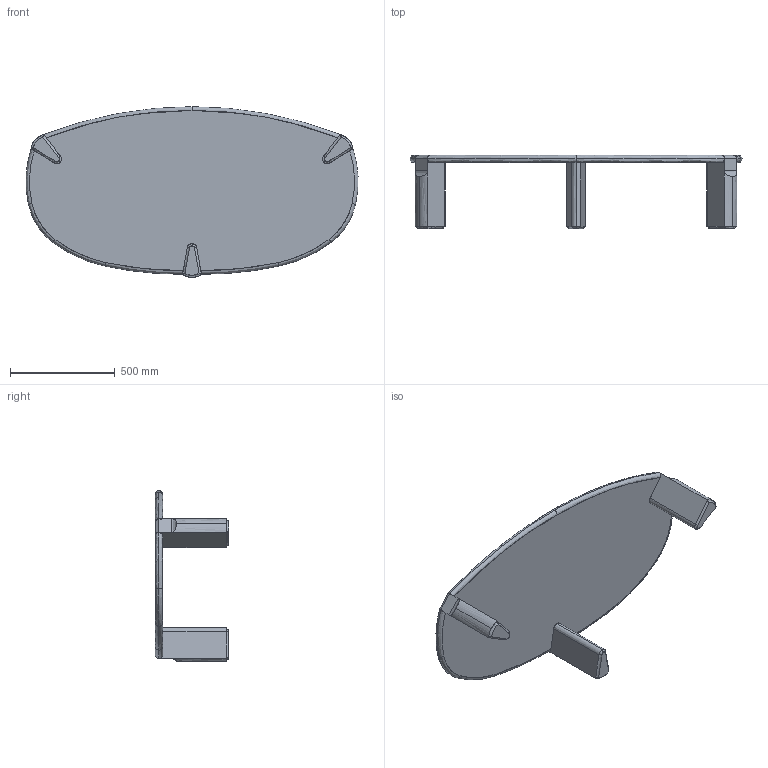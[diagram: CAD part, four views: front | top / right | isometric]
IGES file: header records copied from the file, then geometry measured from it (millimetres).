
Start section: SolidWorks IGES file using analytic representation for surfaces
Global section: file name: C:\Users\Utilizador\Desktop\Sales Files\686\686L Twenty-Five Coffee Table_3D IGS.IGS; native system: SolidWorks 2016; preprocessor: SolidWorks 2016; author: Utilizador; date: 221021.163240; units: millimetre
Bounding box: 1584.28 x 350 x 814 mm (x, y, z)
Surface area: 2649478.7 mm2 (no closed solid volume)
Topology: 0 solids, 0 shells, 148 faces, 2739 edges, 2739 vertices
Faces by surface type: bspline 76, revolution 72
